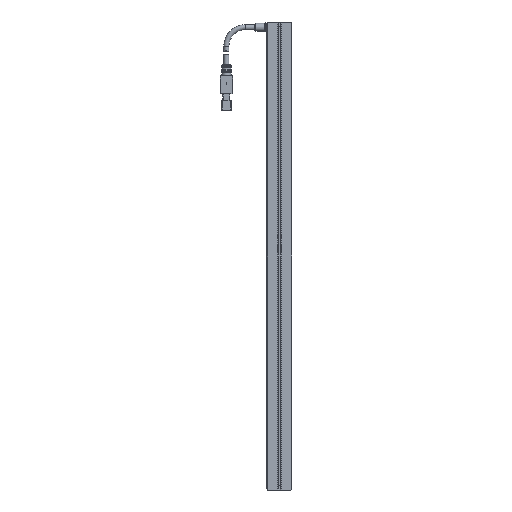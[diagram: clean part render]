
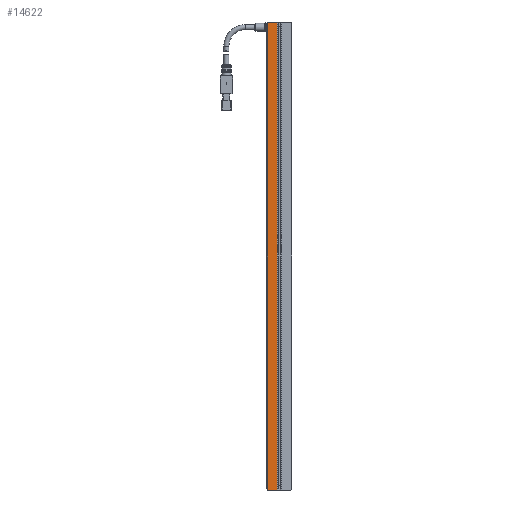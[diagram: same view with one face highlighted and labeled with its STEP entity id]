
A CAD part, front view. The second image highlights one B-rep face of the part: STEP entity #14622.
In plain terms, the highlighted planar face has unit normal (0, -1, 0).
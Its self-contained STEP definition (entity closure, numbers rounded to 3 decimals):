
#148 = PLANE ( 'NONE',  #5351 ) ;
#206 = LINE ( 'NONE', #9929, #12694 ) ;
#391 = EDGE_CURVE ( 'NONE', #8995, #5477, #1731, .T. ) ;
#995 = VECTOR ( 'NONE', #6019, 1000. ) ;
#1731 = LINE ( 'NONE', #5057, #14893 ) ;
#1932 = LINE ( 'NONE', #10561, #13414 ) ;
#2464 = DIRECTION ( 'NONE',  ( 0., 0., -1. ) ) ;
#3093 = VERTEX_POINT ( 'NONE', #5113 ) ;
#4341 = EDGE_CURVE ( 'NONE', #9203, #9489, #6574, .T. ) ;
#4504 = DIRECTION ( 'NONE',  ( -0.707, 0., -0.707 ) ) ;
#4671 = CARTESIAN_POINT ( 'NONE',  ( -9.5, 0., -187.5 ) ) ;
#5057 = CARTESIAN_POINT ( 'NONE',  ( -1.75, 0., 188. ) ) ;
#5113 = CARTESIAN_POINT ( 'NONE',  ( -9., 0., 188. ) ) ;
#5351 = AXIS2_PLACEMENT_3D ( 'NONE', #9442, #16011, #5358 ) ;
#5358 = DIRECTION ( 'NONE',  ( 1., 0., 0. ) ) ;
#5477 = VERTEX_POINT ( 'NONE', #10832 ) ;
#5556 = ORIENTED_EDGE ( 'NONE', *, *, #15488, .F. ) ;
#6019 = DIRECTION ( 'NONE',  ( 0., 0., -1. ) ) ;
#6144 = LINE ( 'NONE', #7106, #13478 ) ;
#6422 = ORIENTED_EDGE ( 'NONE', *, *, #4341, .T. ) ;
#6574 = LINE ( 'NONE', #13981, #995 ) ;
#7059 = ORIENTED_EDGE ( 'NONE', *, *, #10398, .T. ) ;
#7106 = CARTESIAN_POINT ( 'NONE',  ( -4.5, 0., 192.5 ) ) ;
#7345 = CARTESIAN_POINT ( 'NONE',  ( -1.75, 0., 188. ) ) ;
#8386 = EDGE_CURVE ( 'NONE', #8995, #3093, #206, .T. ) ;
#8558 = ORIENTED_EDGE ( 'NONE', *, *, #8386, .T. ) ;
#8861 = DIRECTION ( 'NONE',  ( -1., 0., 0. ) ) ;
#8995 = VERTEX_POINT ( 'NONE', #7345 ) ;
#9199 = FACE_OUTER_BOUND ( 'NONE', #9683, .T. ) ;
#9203 = VERTEX_POINT ( 'NONE', #13003 ) ;
#9442 = CARTESIAN_POINT ( 'NONE',  ( 0., 0., 188. ) ) ;
#9489 = VERTEX_POINT ( 'NONE', #4671 ) ;
#9683 = EDGE_LOOP ( 'NONE', ( #8558, #7059, #6422, #14237, #5556, #14963 ) ) ;
#9929 = CARTESIAN_POINT ( 'NONE',  ( 0., 0., 188. ) ) ;
#10398 = EDGE_CURVE ( 'NONE', #3093, #9203, #6144, .T. ) ;
#10561 = CARTESIAN_POINT ( 'NONE',  ( -192.5, 0., -4.5 ) ) ;
#10832 = CARTESIAN_POINT ( 'NONE',  ( -1.75, 0., -188. ) ) ;
#11331 = LINE ( 'NONE', #14121, #15106 ) ;
#12625 = CARTESIAN_POINT ( 'NONE',  ( -9., 0., -188. ) ) ;
#12655 = DIRECTION ( 'NONE',  ( -1., 0., 0. ) ) ;
#12694 = VECTOR ( 'NONE', #8861, 1000. ) ;
#13003 = CARTESIAN_POINT ( 'NONE',  ( -9.5, 0., 187.5 ) ) ;
#13382 = DIRECTION ( 'NONE',  ( 0.707, 0., -0.707 ) ) ;
#13414 = VECTOR ( 'NONE', #13382, 1000. ) ;
#13478 = VECTOR ( 'NONE', #4504, 1000. ) ;
#13731 = VERTEX_POINT ( 'NONE', #12625 ) ;
#13981 = CARTESIAN_POINT ( 'NONE',  ( -9.5, 0., 188. ) ) ;
#14121 = CARTESIAN_POINT ( 'NONE',  ( 0., 0., -188. ) ) ;
#14146 = EDGE_CURVE ( 'NONE', #9489, #13731, #1932, .T. ) ;
#14237 = ORIENTED_EDGE ( 'NONE', *, *, #14146, .T. ) ;
#14622 = ADVANCED_FACE ( 'NONE', ( #9199 ), #148, .T. ) ;
#14893 = VECTOR ( 'NONE', #2464, 1000. ) ;
#14963 = ORIENTED_EDGE ( 'NONE', *, *, #391, .F. ) ;
#15106 = VECTOR ( 'NONE', #12655, 1000. ) ;
#15488 = EDGE_CURVE ( 'NONE', #5477, #13731, #11331, .T. ) ;
#16011 = DIRECTION ( 'NONE',  ( 0., -1., 0. ) ) ;
